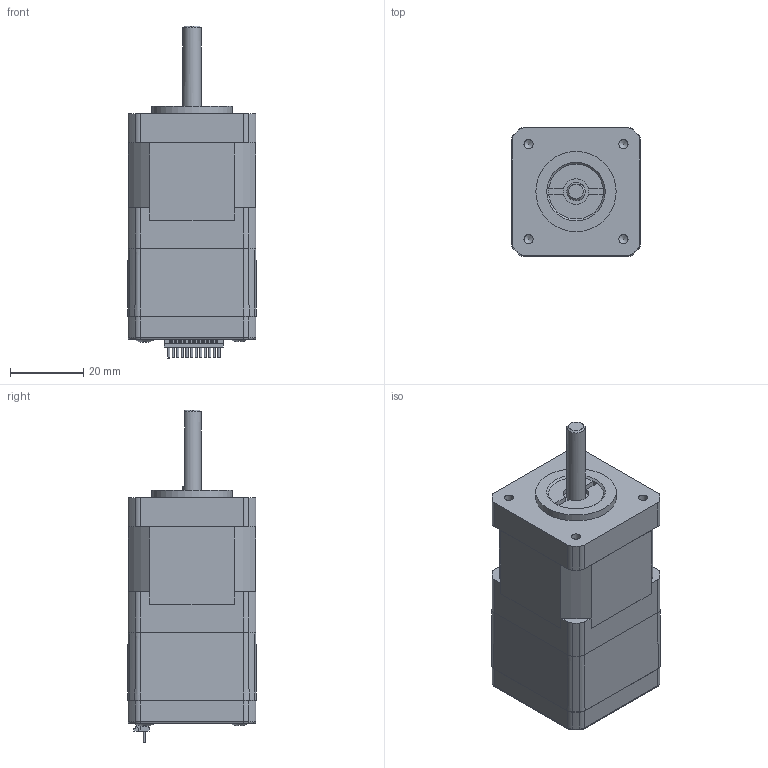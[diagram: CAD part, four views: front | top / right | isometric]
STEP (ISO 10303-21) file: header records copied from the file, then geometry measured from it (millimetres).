
FILE_DESCRIPTION (( 'STEP AP214' ), '1' );
FILE_NAME ('IM35ET(C)020-(P).STEP', '2024-11-16T03:33:02', ( '' ), ( '' ), 'SwSTEP 2.0', 'SolidWorks 2023', '' );
FILE_SCHEMA (( 'AUTOMOTIVE_DESIGN' ));
Length unit declared in the file: millimetre
Products named in the file (3): IM35电机_装配体用; IM35驱动器; IM35ET(C)020-(P)
Assembly tree (2 placements, depth 2):
  IM35ET(C)020-(P)
    IM35电机_装配体用
    IM35驱动器
Bounding box: 35.32 x 35.32 x 90.92 mm (x, y, z)
Volume: 62647.6 mm3; surface area: 25501.8 mm2
Topology: 2 solids, 4 shells, 1750 faces, 5039 edges, 3285 vertices
Faces by surface type: plane 1322, cylinder 289, cone 57, bspline 45, torus 33, sphere 4
Full cylindrical faces by diameter (mm): 0.5 x1, 0.6 x17, 0.65 x2, 0.75 x1, 0.8 x2, 1.1 x4, 1.58 x2, 2.5 x4, 3 x3, 3.1 x2, 3.2 x4, 5 x2, 5.3 x2, 5.5 x2, 5.6 x4, 6 x2, 8 x1, 10.165 x1, 22 x2
Entity records: 77320 total; most frequent: CARTESIAN_POINT 14080, ORIENTED_EDGE 9862, DIRECTION 8489, EDGE_CURVE 4931, LINE 3725, VECTOR 3725, VERTEX_POINT 3257, AXIS2_PLACEMENT_3D 2382
